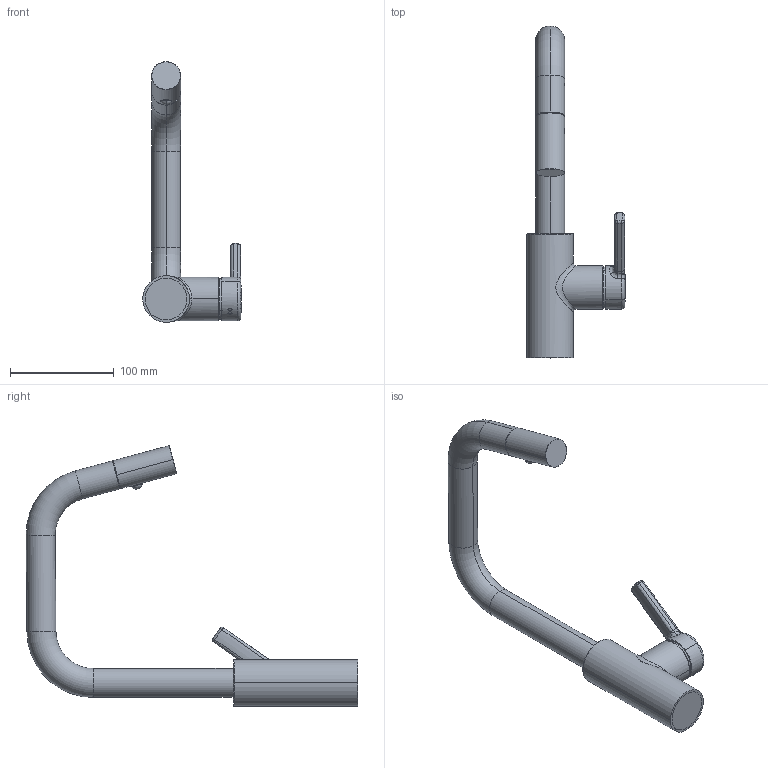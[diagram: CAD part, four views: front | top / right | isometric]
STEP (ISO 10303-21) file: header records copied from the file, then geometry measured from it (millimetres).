
FILE_DESCRIPTION((''),'2;1');
FILE_NAME('509500_SW0001','2020-08-26T15:50:56',('LF994'),(''),'CREO PARAMETRIC BY PTC INC, 2018500','CREO PARAMETRIC BY PTC INC, 2018500','');
FILE_SCHEMA(('CONFIG_CONTROL_DESIGN'));
Length unit declared in the file: millimetre
Products named in the file (1): 509500_SW0001
Bounding box: 95.02 x 320.25 x 251.58 mm (x, y, z)
Volume: 190994.1 mm3; surface area: 134555.5 mm2
Topology: 3 solids, 3 shells, 648 faces, 1547 edges, 920 vertices
Faces by surface type: bspline 180, cylinder 157, cone 104, plane 99, torus 97, sphere 11
Entity records: 32820 total; most frequent: CARTESIAN_POINT 19172, ORIENTED_EDGE 3086, DIRECTION 2565, EDGE_CURVE 1543, AXIS2_PLACEMENT_3D 1109, VERTEX_POINT 920, EDGE_LOOP 673, FACE_OUTER_BOUND 648
